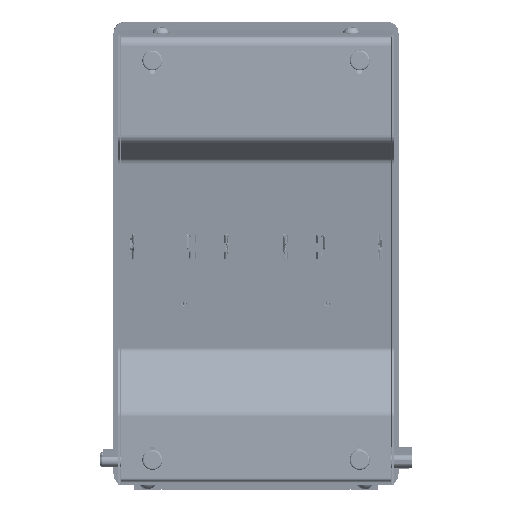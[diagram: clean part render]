
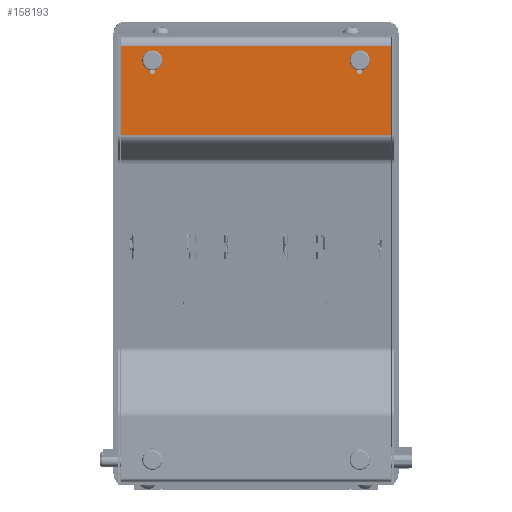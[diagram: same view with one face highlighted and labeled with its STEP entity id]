
A CAD part, front view. The second image highlights one B-rep face of the part: STEP entity #158193.
In plain terms, the highlighted planar face has unit normal (0, -1, 0) as drawn and (0, -0.99, 0.139) by its records, which use the part's own axes.
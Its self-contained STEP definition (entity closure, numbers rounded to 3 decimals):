
#8167=FACE_BOUND('',#22371,.T.);
#8168=FACE_BOUND('',#22372,.T.);
#8612=PLANE('',#168523);
#12350=FACE_OUTER_BOUND('',#22370,.T.);
#22370=EDGE_LOOP('',(#105705,#105706,#105707,#105708));
#22371=EDGE_LOOP('',(#105709,#105710,#105711,#105712));
#22372=EDGE_LOOP('',(#105713,#105714,#105715,#105716));
#32827=LINE('',#229788,#46051);
#32837=LINE('',#229820,#46061);
#32849=LINE('',#229868,#46073);
#32850=LINE('',#229870,#46074);
#32851=LINE('',#229874,#46075);
#32852=LINE('',#229875,#46076);
#32853=LINE('',#229879,#46077);
#32854=LINE('',#229880,#46078);
#46051=VECTOR('',#184607,1000.);
#46061=VECTOR('',#184639,1000.);
#46073=VECTOR('',#184671,1000.);
#46074=VECTOR('',#184674,1000.);
#46075=VECTOR('',#184677,1000.);
#46076=VECTOR('',#184678,1000.);
#46077=VECTOR('',#184681,1000.);
#46078=VECTOR('',#184682,1000.);
#59229=CIRCLE('',#168462,1.75);
#59231=CIRCLE('',#168465,1.75);
#59262=CIRCLE('',#168524,3.5);
#59263=CIRCLE('',#168525,3.5);
#65870=VERTEX_POINT('',#229640);
#65871=VERTEX_POINT('',#229642);
#65874=VERTEX_POINT('',#229649);
#65875=VERTEX_POINT('',#229651);
#65922=VERTEX_POINT('',#229781);
#65924=VERTEX_POINT('',#229787);
#65928=VERTEX_POINT('',#229796);
#65932=VERTEX_POINT('',#229811);
#65950=VERTEX_POINT('',#229871);
#65951=VERTEX_POINT('',#229872);
#65952=VERTEX_POINT('',#229876);
#65953=VERTEX_POINT('',#229877);
#80880=EDGE_CURVE('',#65870,#65871,#59229,.T.);
#80884=EDGE_CURVE('',#65874,#65875,#59231,.T.);
#80953=EDGE_CURVE('',#65922,#65924,#32827,.T.);
#80969=EDGE_CURVE('',#65928,#65932,#32837,.T.);
#80989=EDGE_CURVE('',#65924,#65932,#32849,.T.);
#80990=EDGE_CURVE('',#65922,#65928,#32850,.T.);
#80991=EDGE_CURVE('',#65950,#65951,#59262,.T.);
#80992=EDGE_CURVE('',#65871,#65950,#32851,.T.);
#80993=EDGE_CURVE('',#65951,#65870,#32852,.T.);
#80994=EDGE_CURVE('',#65952,#65953,#59263,.T.);
#80995=EDGE_CURVE('',#65875,#65952,#32853,.T.);
#80996=EDGE_CURVE('',#65953,#65874,#32854,.T.);
#105705=ORIENTED_EDGE('',*,*,#80969,.F.);
#105706=ORIENTED_EDGE('',*,*,#80990,.F.);
#105707=ORIENTED_EDGE('',*,*,#80953,.T.);
#105708=ORIENTED_EDGE('',*,*,#80989,.T.);
#105709=ORIENTED_EDGE('',*,*,#80991,.F.);
#105710=ORIENTED_EDGE('',*,*,#80992,.F.);
#105711=ORIENTED_EDGE('',*,*,#80880,.F.);
#105712=ORIENTED_EDGE('',*,*,#80993,.F.);
#105713=ORIENTED_EDGE('',*,*,#80994,.F.);
#105714=ORIENTED_EDGE('',*,*,#80995,.F.);
#105715=ORIENTED_EDGE('',*,*,#80884,.F.);
#105716=ORIENTED_EDGE('',*,*,#80996,.F.);
#158193=ADVANCED_FACE('',(#12350,#8167,#8168),#8612,.T.);
#168462=AXIS2_PLACEMENT_3D('',#229643,#184475,#184476);
#168465=AXIS2_PLACEMENT_3D('',#229652,#184483,#184484);
#168523=AXIS2_PLACEMENT_3D('',#229869,#184672,#184673);
#168524=AXIS2_PLACEMENT_3D('',#229873,#184675,#184676);
#168525=AXIS2_PLACEMENT_3D('',#229878,#184679,#184680);
#184475=DIRECTION('center_axis',(0.,-0.99,0.139));
#184476=DIRECTION('ref_axis',(0.,-0.139,-0.99));
#184483=DIRECTION('center_axis',(0.,-0.99,0.139));
#184484=DIRECTION('ref_axis',(0.,0.139,0.99));
#184607=DIRECTION('',(0.,0.139,0.99));
#184639=DIRECTION('',(0.,0.139,0.99));
#184671=DIRECTION('',(-1.,0.,0.));
#184672=DIRECTION('center_axis',(0.,-0.99,0.139));
#184673=DIRECTION('ref_axis',(0.,-0.139,-0.99));
#184674=DIRECTION('',(-1.,0.,0.));
#184675=DIRECTION('center_axis',(0.,-0.99,0.139));
#184676=DIRECTION('ref_axis',(0.,0.139,0.99));
#184677=DIRECTION('',(0.,0.139,0.99));
#184678=DIRECTION('',(0.,-0.139,-0.99));
#184679=DIRECTION('center_axis',(0.,-0.99,0.139));
#184680=DIRECTION('ref_axis',(0.,-0.139,-0.99));
#184681=DIRECTION('',(0.,0.139,0.99));
#184682=DIRECTION('',(0.,-0.139,-0.99));
#229640=CARTESIAN_POINT('',(65.75,36.93,119.019));
#229642=CARTESIAN_POINT('',(69.25,36.93,119.019));
#229643=CARTESIAN_POINT('Origin',(67.5,36.93,119.019));
#229649=CARTESIAN_POINT('',(-69.25,36.93,119.019));
#229651=CARTESIAN_POINT('',(-65.75,36.93,119.019));
#229652=CARTESIAN_POINT('Origin',(-67.5,36.93,119.019));
#229781=CARTESIAN_POINT('',(88.,31.151,77.899));
#229787=CARTESIAN_POINT('',(88.,39.197,135.155));
#229788=CARTESIAN_POINT('',(88.,30.729,74.897));
#229796=CARTESIAN_POINT('',(-88.,31.151,77.899));
#229811=CARTESIAN_POINT('',(-88.,39.197,135.155));
#229820=CARTESIAN_POINT('',(-88.,30.729,74.897));
#229868=CARTESIAN_POINT('',(88.,39.197,135.155));
#229869=CARTESIAN_POINT('Origin',(88.,30.729,74.897));
#229870=CARTESIAN_POINT('',(88.,31.151,77.899));
#229871=CARTESIAN_POINT('',(69.25,37.482,122.949));
#229872=CARTESIAN_POINT('',(65.75,37.482,122.949));
#229873=CARTESIAN_POINT('Origin',(67.5,37.904,125.951));
#229874=CARTESIAN_POINT('',(69.25,37.482,122.949));
#229875=CARTESIAN_POINT('',(65.75,37.482,122.949));
#229876=CARTESIAN_POINT('',(-65.75,37.482,122.949));
#229877=CARTESIAN_POINT('',(-69.25,37.482,122.949));
#229878=CARTESIAN_POINT('Origin',(-67.5,37.904,125.951));
#229879=CARTESIAN_POINT('',(-65.75,37.482,122.949));
#229880=CARTESIAN_POINT('',(-69.25,37.482,122.949));
